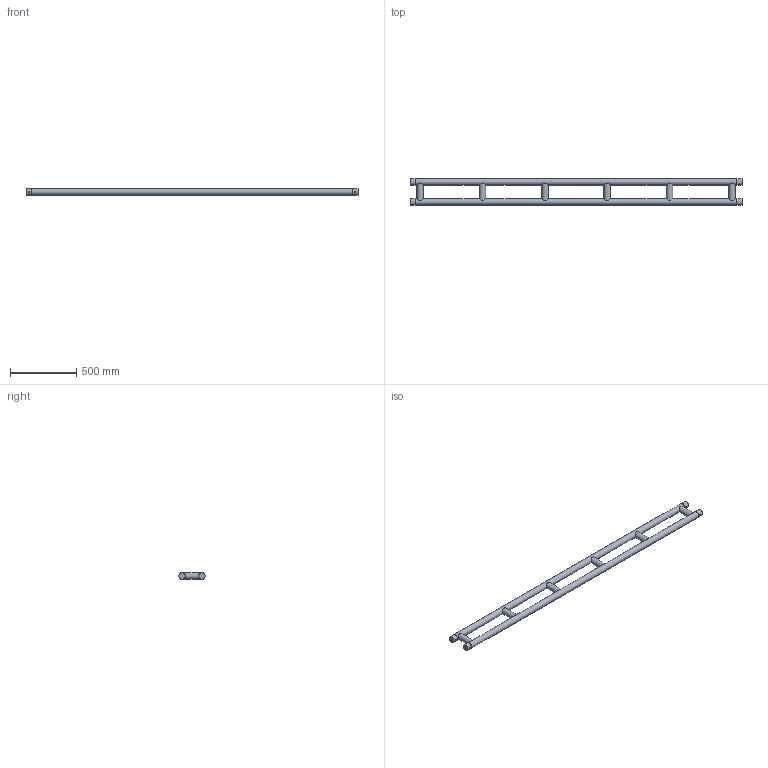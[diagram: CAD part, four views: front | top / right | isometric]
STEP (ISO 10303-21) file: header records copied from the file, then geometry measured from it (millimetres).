
FILE_DESCRIPTION(/* description */ (''),/* implementation_level */ '2;1');
FILE_NAME(/* name */ 'C:\Users\adrian.toca\Desktop\111050569.stp',/* time_stamp */ '2016-09-30T15:03:33+03:00',/* author */ ('adrian.toca'),/* organization */ (''),/* preprocessor_version */ 'ST-DEVELOPER v15.6',/* originating_system */ 'Autodesk Inventor 2015',/* authorisation */ '');
FILE_SCHEMA (('AUTOMOTIVE_DESIGN { 1 0 10303 214 3 1 1 }'));
Length unit declared in the file: millimetre
Products named in the file (1): 260031051
Bounding box: 2500 x 198.3 x 48.3 mm (x, y, z)
Volume: 10337988.3 mm3; surface area: 855485.1 mm2
Topology: 1 solids, 1 shells, 52 faces, 164 edges, 104 vertices
Faces by surface type: plane 32, cylinder 16, cone 4
Full cylindrical faces by diameter (mm): 10 x4, 48.3 x12
Entity records: 1823 total; most frequent: CARTESIAN_POINT 517, DIRECTION 258, ORIENTED_EDGE 208, AXIS2_PLACEMENT_3D 117, EDGE_CURVE 104, EDGE_LOOP 96, VERTEX_POINT 80, STYLED_ITEM 53
